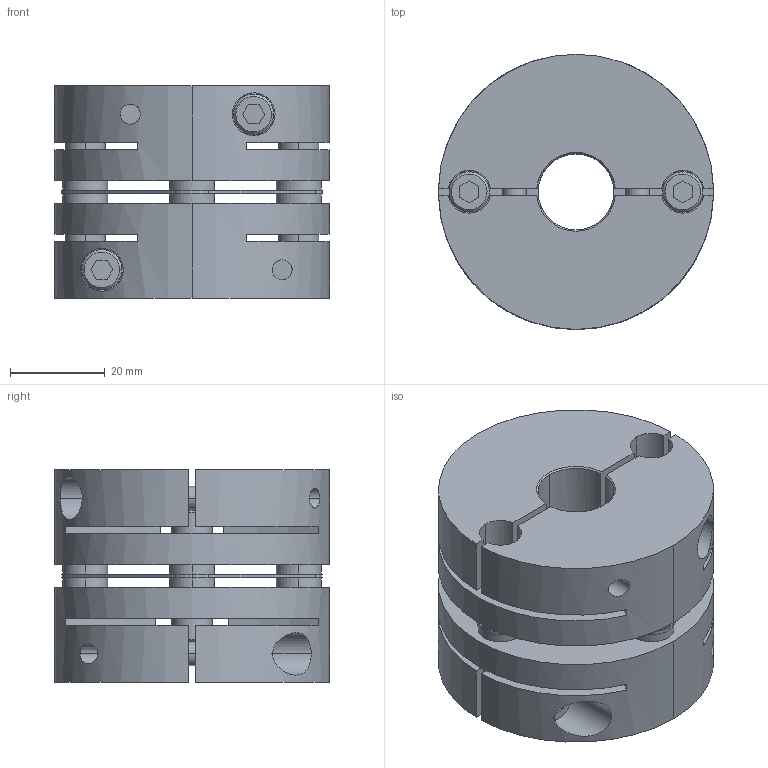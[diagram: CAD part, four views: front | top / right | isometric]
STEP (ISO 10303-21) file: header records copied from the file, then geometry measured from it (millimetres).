
FILE_DESCRIPTION((''),'2;1');
FILE_NAME('LAS-58C-16×18.stp','2015-10-15T14:51:49',(''),(''),'AutoCAD STEP 2000i','AutoCAD 2000i',', , ');
FILE_SCHEMA(('CONFIG_CONTROL_DESIGN'));
Length unit declared in the file: millimetre
Products named in the file (6): LAS-58C-12×19; 忣兜1; LA-5802-D19; LA-5802-D12-1; LA-5802-D12; LAS58-ITA
Assembly tree (5 placements, depth 2):
  LAS-58C-12×19
    忣兜1
    LA-5802-D19
    LA-5802-D12-1
    LA-5802-D12
    LAS58-ITA
Bounding box: 58 x 58 x 44.8 mm (x, y, z)
Volume: 87294.6 mm3; surface area: 33330.9 mm2
Topology: 1 solids, 1 shells, 238 faces, 618 edges, 404 vertices
Faces by surface type: plane 114, cylinder 96, cone 28
Entity records: 8213 total; most frequent: CARTESIAN_POINT 1988, DIRECTION 1316, ORIENTED_EDGE 1240, EDGE_CURVE 620, AXIS2_PLACEMENT_3D 484, VERTEX_POINT 404, VECTOR 348, LINE 348
